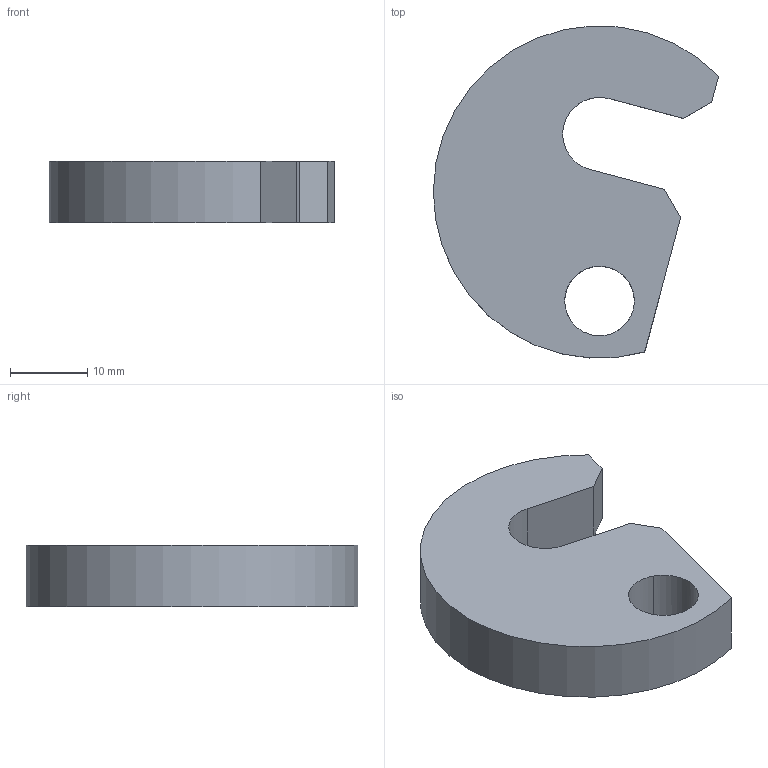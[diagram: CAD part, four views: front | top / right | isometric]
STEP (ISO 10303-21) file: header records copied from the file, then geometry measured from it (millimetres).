
FILE_DESCRIPTION(('CATIA V5 STEP Exchange'),'2;1');
FILE_NAME('\\192.168.198.2\Mechanus\KONSTRUKCE-MONTAZ\PRODUKTY MECHANUS\MS006-SERIZOVACI PRVKY\ADMINISTRATIVA\podklady\klapacky modely\Mechanus--vyklopna podlozka--4308.stp','2024-03-13T07:29:06+00:00',('none'),('none'),'CATIA Version 5 Release 19 GA (IN-10)','CATIA V5 STEP AP203','none');
FILE_SCHEMA(('CONFIG_CONTROL_DESIGN'));
Length unit declared in the file: millimetre
Products named in the file (1): Mechanus--vyklopna podlozka--4308
Bounding box: 36.91 x 42.94 x 8 mm (x, y, z)
Volume: 7568.9 mm3; surface area: 3354.4 mm2
Topology: 1 solids, 1 shells, 14 faces, 34 edges, 22 vertices
Faces by surface type: plane 8, cylinder 4, cone 2
Entity records: 457 total; most frequent: CARTESIAN_POINT 96, ORIENTED_EDGE 68, DIRECTION 54, EDGE_CURVE 34, VECTOR 24, LINE 24, VERTEX_POINT 22, AXIS2_PLACEMENT_3D 20
